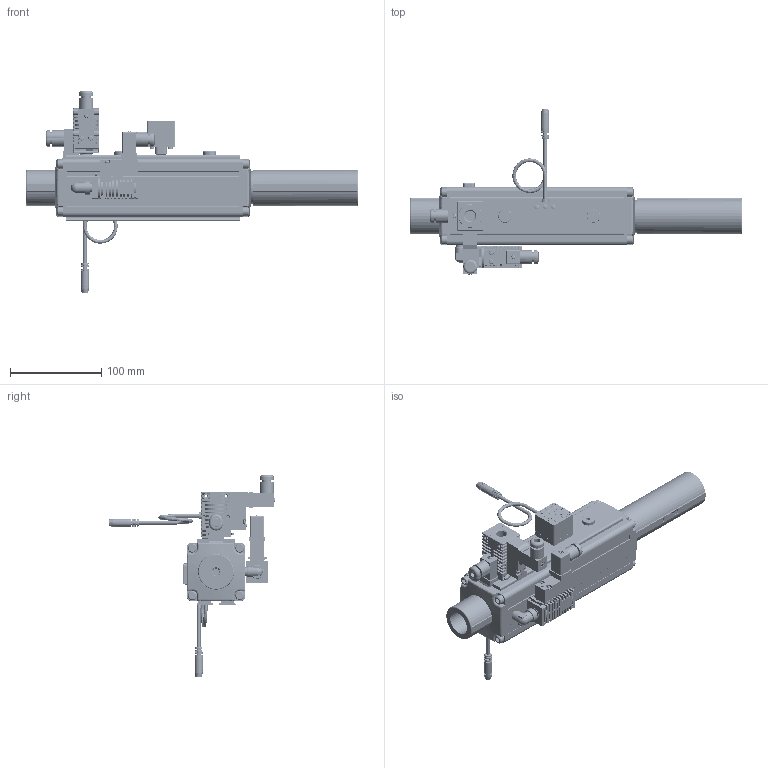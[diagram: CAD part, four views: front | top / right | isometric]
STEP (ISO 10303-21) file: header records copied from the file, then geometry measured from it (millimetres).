
FILE_DESCRIPTION( ( 'Unknown' ), '1' );
FILE_NAME( 'C:/Documents and Settings/Administrator/官帕 拳搁/PM 犁荐沥/PM303X1A-01-A3 R3-DL-S2.stp', 'Unknown', ( 'Unknown' ), ( 'Unknown' ), 'PSStep 10.0', 'Unknown', ' ' );
FILE_SCHEMA( ( 'AUTOMOTIVE_DESIGN { 1 0 10303 214 1 1 1 1 }' ) );
Length unit declared in the file: millimetre
Products named in the file (7): Assem1; 1_0_40_0; VTS-01_48_0; VP20-03-F1-C_47; VMS14_DIN_PT14_10_0; MS18 DIN_0; Elbow_18_double
Bounding box: 363.6 x 181.89 x 221.32 mm (x, y, z)
Volume: 1373527 mm3; surface area: 549091 mm2
Topology: 12 solids, 148 shells, 6292 faces, 16230 edges, 10568 vertices
Faces by surface type: plane 4008, cylinder 1690, cone 260, torus 180, bspline 114, extrusion 26, sphere 14
Full cylindrical faces by diameter (mm): 0.13 x2, 1 x24, 1.158 x2, 1.2 x4, 1.4 x4, 2.2 x4, 2.5 x12, 2.8 x2, 3 x16, 3.2 x4, 3.242 x8, 3.4 x18, 4 x8, 4.134 x16, 4.2 x8, 4.9 x2, 5 x4, 5.1 x2, 5.2 x8, 5.4 x4, 5.5 x6, 5.6 x2, 6 x20, 6.35 x2, 6.5 x20, 6.535 x4, 7 x10, 7.2 x6, 7.9 x2, 8 x4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
Entity records: 122972 total; most frequent: CARTESIAN_POINT 23124, DIRECTION 15250, ORIENTED_EDGE 15002, EDGE_CURVE 7501, VECTOR 5192, LINE 5179, VERTEX_POINT 5083, AXIS2_PLACEMENT_3D 5029
